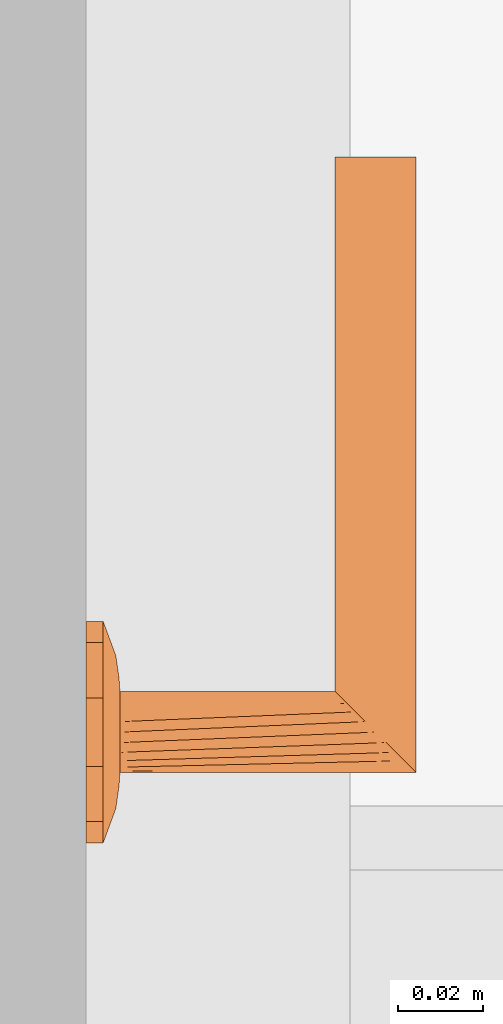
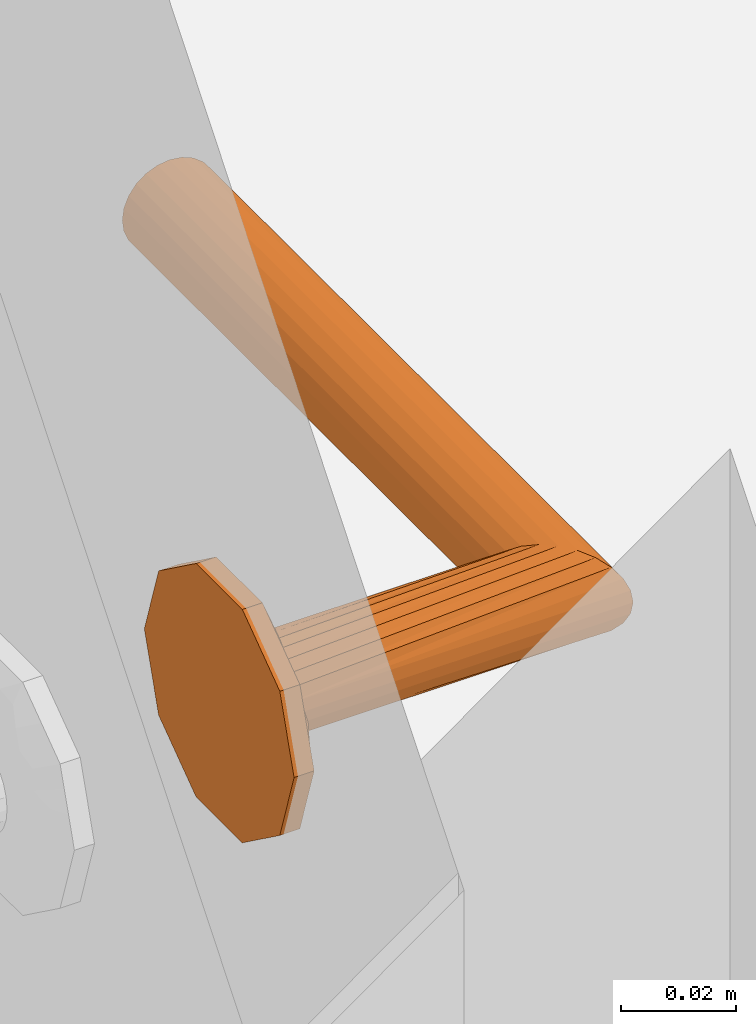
# One storey, part 49 of 57: 1 proxy.
"""IFC2X3 building model written with IfcOpenShell, lengths in millimetres."""

from ifc_helpers import new_model, entity, si_unit, converted_unit, direction, frame, origin, place, context, subcontext, project, spatial, faceted_brep, source, transform, mapped, material, type_object, type_shapes, element, save


model = new_model("IFC2X3")

# Units and contexts
model_context = context("Model", 3, precision=0.01, world=origin(), true_north=direction((6.123233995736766e-17, 1.0)))
plan_context = context("Plan", 3, precision=0.01, world=origin(), true_north=direction((6.123233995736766e-17, 1.0)))
body_context = subcontext(model_context, "Body", "Model", "MODEL_VIEW")
ifc_project = project(units=[si_unit("LENGTHUNIT", "METRE", prefix="MILLI"), converted_unit("PLANEANGLEUNIT", "DEGREE", entity("IfcPlaneAngleMeasure", 0.017453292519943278), si_unit("PLANEANGLEUNIT", "RADIAN"), dimensions=[0, 0, 0, 0, 0, 0, 0]), si_unit("AREAUNIT", "SQUARE_METRE")], contexts=[model_context, plan_context])

# Site, building, storey
site_placement = place(None, origin())
site = spatial("IfcSite", under=ifc_project, at=site_placement, Name="Default", CompositionType="ELEMENT")
building_placement = place(site_placement, origin())
building = spatial("IfcBuilding", under=site, at=building_placement, CompositionType="ELEMENT")
storey_placement = place(building_placement, frame((0.0, 0.0, 12811.000000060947)))
storey = spatial("IfcBuildingStorey", under=building, at=storey_placement, Name="5K", CompositionType="ELEMENT", Elevation=12811.000000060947)

# Proxy
ifc_material = material(Name="<Unnamed>")
building_element_proxy_type = type_object("IfcBuildingElementProxyType", Name="Door-handle_Lever_ABLOY_INOXI_3-19ss-002_RT:Default", PredefinedType="NOTDEFINED", material=ifc_material)
shared_shape = source(origin(), body_context, "Body", "Brep", [
    faceted_brep([(0.0, 0.0, 0.0), (8.034441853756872, 24.72746942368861, 0.0), (14.534441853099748, 20.00494299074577, 0.0), (21.034441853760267, 15.282416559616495, 0.0), (23.51722092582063, 7.641208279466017, 0.0), (26.0, 0.0, 0.0), (23.517220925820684, -7.641208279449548, 0.0), (0.0, 24.72746942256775, 0.0), (-8.034441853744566, 24.727469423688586, 0.0), (-14.534441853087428, 20.00494299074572, 0.0), (-21.03444185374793, 15.282416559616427, 0.0), (-23.517220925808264, 7.641208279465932, 0.0), (-26.0, 0.0, 0.0), (21.034441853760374, -15.282416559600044, 0.0), (14.534441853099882, -20.004942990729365, 0.0), (8.034441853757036, -24.72746942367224, 0.0), (0.0, -24.72746942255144, 0.0), (-23.517220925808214, -7.641208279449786, 0.0), (-21.034441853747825, -15.282416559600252, 0.0), (-14.53444185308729, -20.004942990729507, 0.0), (-8.0344418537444, -24.72746942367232, 0.0), (0.0, 0.0, 8.0), (9.500000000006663, 0.0, 8.0), (8.312500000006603, 2.056810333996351, 8.0), (7.125000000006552, 4.113620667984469, 8.0), (5.937500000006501, 6.170431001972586, 8.0), (4.7500000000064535, 8.227241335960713, 8.0), (2.375000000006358, 8.2272413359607, 8.0), (0.0, 8.227241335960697, 8.0), (-2.3749999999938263, 8.227241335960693, 8.0), (-4.749999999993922, 8.227241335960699, 8.0), (-5.937499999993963, 6.1704310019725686, 8.0), (-7.124999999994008, 4.1136206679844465, 8.0), (-8.312499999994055, 2.0568103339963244, 8.0), (-9.499999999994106, 0.0, 8.0), (-8.31249999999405, -2.0568103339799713, 8.0), (8.312500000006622, -2.0568103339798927, 8.0), (7.125000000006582, -4.113620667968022, 8.0), (5.937500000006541, -6.170431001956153, 8.0), (4.750000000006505, -8.227241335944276, 8.0), (-7.124999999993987, -4.113620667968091, 8.0), (-5.9374999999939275, -6.17043100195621, 8.0), (-4.74999999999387, -8.227241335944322, 8.0), (-2.374999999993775, -8.227241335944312, 8.0), (0.0, -8.227241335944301, 8.0), (2.3750000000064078, -8.227241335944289, 8.0), (-20.6430713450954, 6.292822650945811, 5.929480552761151), (-16.663919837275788, 7.932665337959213, 6.877259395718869), (-22.48876527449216, 10.806469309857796, 4.030771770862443), (-16.764060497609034, 3.8202578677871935, 7.1747985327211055), (-12.504579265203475, 5.179566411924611, 7.774932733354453), (-11.979136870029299, 13.678312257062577, 6.945778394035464), (-11.963426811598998, 8.62529041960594, 7.618343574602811), (-9.07172672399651, 10.31160661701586, 7.7520782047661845), (8.03444185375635, 24.727469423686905, 4.030771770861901), (0.0, 24.72746942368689, 4.030771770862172), (5.758554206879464, 20.96753300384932, 5.871476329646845), (20.643071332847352, 6.292822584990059, 5.929480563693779), (22.488765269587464, 10.806469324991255, 4.03077177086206), (16.66391982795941, 7.9326653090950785, 6.877259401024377), (9.49943163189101, 18.6436835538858, 6.154325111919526), (14.534441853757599, 20.004942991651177, 4.030771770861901), (-14.534441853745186, 20.00494299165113, 4.030771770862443), (-21.034441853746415, 15.282416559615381, 4.030771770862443), (-15.783149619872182, 11.991003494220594, 6.50080018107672), (-23.943088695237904, 6.330522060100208, 4.030771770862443), (-23.012042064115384, 0.0, 5.135401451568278), (12.50457924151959, 5.179566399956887, 7.774932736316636), (11.963426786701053, 8.625290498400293, 7.618343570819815), (16.76406041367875, 3.820257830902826, 7.17479855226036), (15.783149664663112, 11.991003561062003, 6.50080015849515), (23.01204200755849, 0.0, 5.135401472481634), (17.9853516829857, 0.0, 6.993737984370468), (8.661516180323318, 10.478936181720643, 7.768126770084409), (-3.3573143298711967, 21.197247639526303, 5.971427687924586), (-8.03444185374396, 24.727469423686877, 4.030771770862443), (-7.711266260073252, 12.76034452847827, 7.594456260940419), (-5.97325794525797, 16.43013906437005, 7.110979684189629), (-9.94191586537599, 17.061976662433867, 6.522757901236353), (11.979136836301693, 13.678312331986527, 6.945778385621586), (5.953298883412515, 16.50608604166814, 7.096344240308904), (7.511307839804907, 13.358932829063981, 7.529187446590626), (-1.5654593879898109, 15.307443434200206, 7.519134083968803), (-7.784980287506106, 20.476295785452, 5.812837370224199), (2.8135289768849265, 17.763922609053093, 6.993737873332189), (-17.985351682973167, 0.0, 6.993737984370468), (-26.0, 0.0, 4.030771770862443), (-23.51722092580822, 7.641208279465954, 4.030771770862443), (26.0, 0.0, 4.030771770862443), (24.308823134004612, 5.204907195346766, 4.030771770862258), (23.943088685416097, 6.330522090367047, 4.030771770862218), (21.03444185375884, 15.282416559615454, 4.030771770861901), (22.617646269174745, 10.40981439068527, 4.030771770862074), (20.6430713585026, -6.292822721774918, 5.929480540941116), (16.663919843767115, -7.932665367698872, 6.877259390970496), (22.48876527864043, -10.8064692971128, 4.030771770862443), (16.764060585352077, -3.8202579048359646, 7.174798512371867), (12.504579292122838, -5.17956641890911, 7.774932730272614), (11.979136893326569, -13.678312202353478, 6.9457784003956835), (11.963426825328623, -8.62529034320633, 7.618343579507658), (9.071726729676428, -10.311606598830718, 7.752078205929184), (-8.03444185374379, -24.727469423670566, 4.030771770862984), (0.0, -24.727469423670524, 4.030771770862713), (-5.758554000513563, -20.96753314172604, 5.8714763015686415), (-20.643071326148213, -6.292822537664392, 5.929480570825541), (-22.488765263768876, -10.80646934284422, 4.030771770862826), (-16.66391981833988, -7.932665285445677, 6.877259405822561), (-9.499431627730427, -18.643683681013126, 6.154325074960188), (-14.534441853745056, -20.004942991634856, 4.030771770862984), (14.53444185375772, -20.00494299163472, 4.030771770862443), (21.034441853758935, -15.282416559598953, 4.030771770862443), (15.783149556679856, -11.991003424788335, 6.5008002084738), (23.943088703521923, -6.330522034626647, 4.030771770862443), (-12.504579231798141, -5.17956638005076, 7.77493273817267), (-11.963426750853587, -8.625290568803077, 7.618343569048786), (-16.764060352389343, -3.8202577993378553, 7.174798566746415), (-15.783149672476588, -11.991003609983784, 6.500800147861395), (-8.661516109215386, -10.478936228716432, 7.768126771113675), (3.3573144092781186, -21.197247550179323, 5.971427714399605), (8.034441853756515, -24.727469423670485, 4.030771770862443), (7.711266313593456, -12.760344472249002, 7.5944562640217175), (5.9732581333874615, -16.430139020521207, 7.110979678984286), (9.941915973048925, -17.06197655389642, 6.522757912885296), (-11.979136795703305, -13.678312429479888, 6.945778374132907), (-5.953298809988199, -16.506086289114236, 7.096344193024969), (-7.511307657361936, -13.358932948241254, 7.5291874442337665), (1.5654596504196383, -15.3074431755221, 7.519134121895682), (7.784980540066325, -20.476295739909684, 5.812837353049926), (-2.81352881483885, -17.76392263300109, 6.993737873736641), (23.517220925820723, -7.64120827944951, 4.030771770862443), (-24.308823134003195, -5.20490719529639, 4.030771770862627), (-23.943088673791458, -6.330522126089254, 4.030771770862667), (-21.034441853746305, -15.282416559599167, 4.030771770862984), (-22.617646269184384, -10.409814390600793, 4.0307717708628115)], [[[0, 1, 2]], [[0, 2, 3]], [[0, 3, 4]], [[0, 4, 5]], [[0, 5, 6]], [[0, 7, 1]], [[0, 8, 7]], [[0, 9, 8]], [[0, 10, 9]], [[0, 11, 10]], [[0, 12, 11]], [[0, 6, 13]], [[0, 13, 14]], [[0, 14, 15]], [[0, 15, 16]], [[0, 17, 12]], [[0, 18, 17]], [[0, 19, 18]], [[0, 20, 19]], [[0, 16, 20]], [[21, 22, 23]], [[21, 23, 24]], [[21, 24, 25]], [[21, 25, 26]], [[21, 26, 27]], [[21, 27, 28]], [[21, 28, 29]], [[21, 29, 30]], [[21, 30, 31]], [[21, 31, 32]], [[21, 32, 33]], [[21, 33, 34]], [[21, 34, 35]], [[21, 36, 22]], [[21, 37, 36]], [[21, 38, 37]], [[21, 39, 38]], [[21, 35, 40]], [[21, 40, 41]], [[21, 41, 42]], [[21, 42, 43]], [[21, 43, 44]], [[21, 44, 45]], [[21, 45, 39]], [[46, 47, 48]], [[49, 50, 47]], [[33, 32, 50]], [[51, 52, 53]], [[32, 52, 50]], [[49, 47, 46]], [[54, 55, 56]], [[57, 58, 59]], [[60, 61, 54]], [[62, 63, 64]], [[46, 65, 66]], [[67, 59, 68]], [[23, 69, 67]], [[70, 68, 59]], [[23, 22, 69]], [[52, 51, 64]], [[71, 69, 72]], [[73, 25, 68]], [[74, 55, 75]], [[76, 77, 78]], [[70, 61, 79]], [[71, 57, 69]], [[60, 80, 81]], [[51, 76, 78]], [[77, 29, 82]], [[26, 81, 27]], [[74, 83, 77]], [[77, 82, 74]], [[74, 84, 55]], [[34, 49, 85]], [[23, 67, 24]], [[28, 84, 82]], [[74, 82, 84]], [[29, 76, 30]], [[29, 28, 82]], [[49, 34, 33]], [[47, 50, 52]], [[47, 52, 64]], [[50, 49, 33]], [[53, 76, 51]], [[52, 32, 31]], [[49, 66, 85]], [[86, 66, 65]], [[24, 67, 68]], [[83, 78, 77]], [[49, 46, 66]], [[48, 64, 63]], [[46, 48, 87, 65]], [[48, 47, 64]], [[59, 67, 69]], [[26, 73, 81]], [[79, 68, 70]], [[25, 24, 68]], [[71, 88, 89, 90]], [[22, 72, 69]], [[59, 69, 57]], [[79, 61, 60]], [[51, 62, 64]], [[70, 58, 91]], [[90, 57, 71]], [[58, 70, 59]], [[57, 90, 92]], [[79, 60, 81]], [[61, 70, 91]], [[56, 80, 60]], [[79, 81, 73]], [[80, 84, 27]], [[79, 73, 68]], [[27, 84, 28]], [[25, 73, 26]], [[77, 76, 29]], [[31, 30, 53]], [[78, 62, 51]], [[75, 62, 83]], [[78, 83, 62]], [[75, 83, 74]], [[76, 53, 30]], [[31, 53, 52]], [[81, 80, 27]], [[84, 80, 56]], [[84, 56, 55]], [[54, 56, 60]], [[93, 94, 95]], [[96, 97, 94]], [[36, 37, 97]], [[98, 99, 100]], [[37, 99, 97]], [[96, 94, 93]], [[101, 102, 103]], [[104, 105, 106]], [[107, 108, 101]], [[109, 110, 111]], [[93, 112, 71]], [[113, 106, 114]], [[35, 115, 113]], [[116, 114, 106]], [[35, 34, 115]], [[99, 98, 111]], [[66, 115, 85]], [[117, 41, 114]], [[118, 102, 119]], [[120, 121, 122]], [[116, 108, 123]], [[66, 104, 115]], [[107, 124, 125]], [[120, 45, 121]], [[121, 45, 126]], [[42, 125, 43]], [[118, 127, 121]], [[121, 126, 118]], [[118, 128, 102]], [[22, 96, 72]], [[35, 113, 40]], [[44, 128, 126]], [[118, 126, 128]], [[45, 120, 39]], [[45, 44, 126]], [[96, 22, 36]], [[94, 97, 99]], [[94, 99, 111]], [[97, 96, 36]], [[100, 120, 98]], [[99, 37, 38]], [[96, 71, 72]], [[88, 71, 112]], [[40, 113, 114]], [[127, 122, 121]], [[96, 93, 71]], [[95, 111, 110]], [[93, 95, 129, 112]], [[95, 94, 111]], [[106, 113, 115]], [[42, 117, 125]], [[123, 114, 116]], [[41, 40, 114]], [[66, 86, 130, 131]], [[34, 85, 115]], [[106, 115, 104]], [[123, 108, 107]], [[98, 109, 111]], [[116, 105, 132]], [[131, 104, 66]], [[105, 116, 106]], [[104, 131, 133]], [[123, 107, 125]], [[108, 116, 132]], [[103, 124, 107]], [[123, 125, 117]], [[124, 128, 43]], [[123, 117, 114]], [[43, 128, 44]], [[41, 117, 42]], [[38, 39, 100]], [[98, 120, 122]], [[122, 109, 98]], [[119, 109, 127]], [[122, 127, 109]], [[119, 127, 118]], [[120, 100, 39]], [[38, 100, 99]], [[125, 124, 43]], [[128, 124, 103]], [[128, 103, 102]], [[101, 103, 107]], [[9, 10, 63, 62, 75, 8]], [[11, 12, 86, 65, 87, 48, 63, 10]], [[4, 3, 92, 90, 89, 88, 5]], [[3, 91, 58]], [[55, 54, 1, 7, 8, 75]], [[3, 2, 1, 54, 61, 91]], [[13, 6, 5, 88, 112, 129, 95, 110]], [[119, 15, 14, 13, 110, 109]], [[17, 18, 133, 131, 130, 86, 12]], [[18, 132, 105]], [[102, 101, 20, 16, 15, 119]], [[18, 19, 20, 101, 108, 132]], [[57, 92, 58]], [[104, 133, 105]], [[3, 58, 92]], [[18, 105, 133]]]),
    faceted_brep([(0.0, 9.499999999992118, 8.0), (2.4587809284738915, 9.176295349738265, 8.0), (4.7499999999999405, 8.22724133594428, 8.0), (6.717514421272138, 6.7175144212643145, 8.0), (8.227241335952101, 4.749999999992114, 8.0), (9.17629534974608, 2.458780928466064, 8.0), (9.499999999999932, 0.0, 8.0), (9.17629534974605, -2.458780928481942, 8.0), (8.22724133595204, -4.75000000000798, 8.0), (6.717514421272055, -6.717514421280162, 8.0), (4.7499999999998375, -8.227241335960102, 8.0), (2.4587809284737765, -9.176295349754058, 8.0), (0.0, -9.500000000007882, 8.0), (-2.4587809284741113, -9.176295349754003, 8.0), (-4.750000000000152, -8.227241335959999, 8.0), (-6.717514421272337, -6.717514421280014, 8.0), (-8.227241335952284, -4.750000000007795, 8.0), (-9.176295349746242, -2.458780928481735, 8.0), (-9.500000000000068, 0.0, 8.0), (-9.176295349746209, 2.4587809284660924, 8.0), (-8.227241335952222, 4.74999999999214, 8.0), (-6.717514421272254, 6.717514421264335, 8.0), (-4.7500000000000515, 8.227241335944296, 8.0), (-2.4587809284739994, 9.176295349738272, 8.0), (-6.717514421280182, -6.7175144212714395, 61.282485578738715), (-8.227241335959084, -4.7499999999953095, 59.772758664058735), (-9.176295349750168, -2.458780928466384, 58.82370465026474), (-2.4587809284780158, -9.176295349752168, 65.54121907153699), (-4.750000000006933, -8.227241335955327, 63.25000000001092), (-9.500000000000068, 0.0, 58.50000000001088), (0.0, -9.50000000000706, 68.0), (2.4587809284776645, -9.17629534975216, 70.45878092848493), (4.750000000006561, -8.227241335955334, 72.75000000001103), (6.717514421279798, -6.7175144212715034, 74.71751442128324), (9.17629534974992, -2.458780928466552, 77.17629534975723), (8.22724133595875, -4.749999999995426, 76.22724133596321), (9.499999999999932, 0.0, 77.50000000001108), (9.176295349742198, 2.4587809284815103, 77.1762953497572), (8.227241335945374, 4.750000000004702, 76.22724133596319), (4.749999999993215, 8.227241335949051, 72.75000000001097), (6.7175144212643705, 6.717514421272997, 74.7175144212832), (2.4587809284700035, 9.17629534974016, 70.45878092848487), (-2.4587809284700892, 9.176295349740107, 65.54121907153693), (0.0, 9.49999999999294, 68.0), (-6.717514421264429, 6.717514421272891, 61.282485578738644), (-4.749999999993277, 8.227241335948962, 63.250000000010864), (-9.176295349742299, 2.458780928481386, 58.8237046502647), (-8.227241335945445, 4.750000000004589, 59.77275866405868), (-135.0, 9.500000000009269, 68.0), (-135.0, 9.176295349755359, 65.54121907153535), (-135.0, 8.227241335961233, 63.25000000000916), (-135.0, 6.7175144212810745, 61.28248557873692), (-135.0, 4.750000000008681, 59.772758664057), (-135.0, 2.458780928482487, 58.82370465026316), (-135.0, 0.0, 58.50000000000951), (-135.0, -2.458780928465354, 58.823704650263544), (-135.0, -4.749999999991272, 59.772758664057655), (-135.0, -6.717514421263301, 61.28248557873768), (-135.0, -8.227241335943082, 63.250000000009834), (-135.0, -9.17629534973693, 65.54121907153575), (-135.0, -9.499999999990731, 68.0), (-135.0, -9.17629534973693, 70.45878092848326), (-135.0, -8.227241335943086, 72.75000000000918), (-135.0, -6.717514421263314, 74.71751442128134), (-135.0, -4.749999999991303, 76.22724133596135), (-135.0, -2.4587809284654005, 77.17629534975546), (-135.0, 0.0, 77.5000000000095), (-135.0, 2.4587809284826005, 77.17629534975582), (-135.0, 4.750000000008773, 76.22724133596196), (-135.0, 6.717514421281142, 74.71751442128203), (-135.0, 8.227241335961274, 72.75000000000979), (-135.0, 9.176295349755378, 70.4587809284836)], [[[0, 1, 2, 3, 4, 5, 6, 7, 8, 9, 10, 11, 12, 13, 14, 15, 16, 17, 18, 19, 20, 21, 22, 23]], [[15, 24, 25, 16]], [[16, 25, 26, 17]], [[27, 28, 12]], [[12, 28, 13]], [[13, 28, 24]], [[18, 17, 26, 29]], [[24, 15, 14]], [[14, 13, 24]], [[11, 30, 27]], [[31, 9, 32]], [[32, 8, 33]], [[34, 35, 7]], [[7, 35, 33]], [[36, 34, 7, 6]], [[30, 11, 10]], [[11, 27, 12]], [[33, 8, 7]], [[8, 32, 9]], [[31, 10, 9]], [[10, 31, 30]], [[37, 36, 6, 5]], [[37, 5, 38]], [[39, 40, 4]], [[5, 40, 38]], [[41, 39, 3]], [[5, 4, 40]], [[42, 43, 1]], [[2, 1, 43]], [[2, 41, 3]], [[39, 4, 3]], [[2, 43, 41]], [[23, 44, 45]], [[0, 45, 42]], [[19, 18, 29, 46]], [[20, 19, 46, 47]], [[21, 20, 47, 44]], [[23, 22, 44]], [[45, 0, 23]], [[44, 22, 21]], [[1, 0, 42]], [[48, 49, 50, 51, 52, 53, 54, 55, 56, 57, 58, 59, 60, 61, 62, 63, 64, 65, 66, 67, 68, 69, 70, 71]], [[26, 25, 56, 55]], [[29, 26, 55, 54]], [[28, 27, 59, 58]], [[24, 28, 58, 57]], [[25, 24, 57, 56]], [[27, 30, 60, 59]], [[32, 33, 63, 62]], [[31, 32, 62, 61]], [[34, 36, 66, 65]], [[35, 34, 65, 64]], [[33, 35, 64, 63]], [[61, 60, 30, 31]], [[38, 68, 67, 37]], [[37, 67, 66, 36]], [[41, 71, 70, 39]], [[39, 70, 69, 40]], [[40, 69, 68, 38]], [[48, 71, 41, 43]], [[44, 51, 50, 45]], [[45, 50, 49, 42]], [[29, 54, 53, 46]], [[46, 53, 52, 47]], [[47, 52, 51, 44]], [[42, 49, 48, 43]]]),
])
type_shapes(building_element_proxy_type, [shared_shape])
proxy_placement = place(storey_placement, frame((8388.0, 7090.0, 1000.0), z_axis=(1.0, 0.0, 0.0), x_axis=(0.0, -1.0, 0.0)))
element("IfcBuildingElementProxy", 1, at=proxy_placement, inside=storey, type_object=building_element_proxy_type, material=ifc_material, Name="Door-handle_Lever_ABLOY_INOXI_3-19ss-002_RT:Default", ObjectType="Door-handle_Lever_ABLOY_INOXI_3-19ss-002_RT:Default", context=body_context, shape_type="MappedRepresentation", body=[
    mapped(shared_shape, transform((0.0, 0.0, 0.0), scale=1.0)),
])

save(model, "model.ifc")
